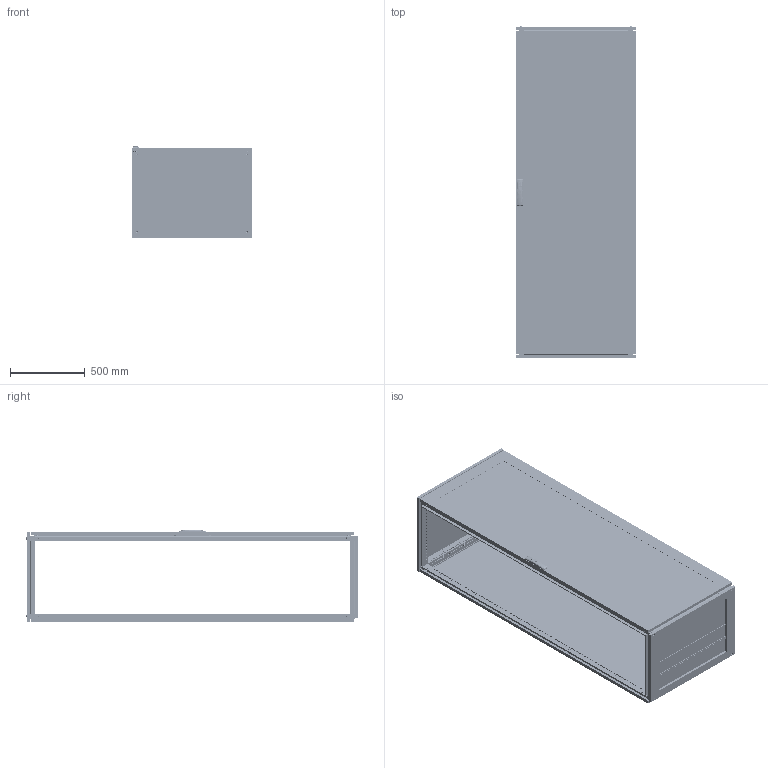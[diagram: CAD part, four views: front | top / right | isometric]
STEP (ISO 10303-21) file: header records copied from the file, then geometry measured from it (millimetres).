
FILE_DESCRIPTION (( 'STEP AP203' ), '1' );
FILE_NAME ('R5CQEN2286AX +.STEP', '2025-05-07T13:00:06', ( '' ), ( '' ), 'SwSTEP 2.0', 'SolidWorks 2022', '' );
FILE_SCHEMA (( 'CONFIG_CONTROL_DESIGN' ));
Length unit declared in the file: millimetre
Products named in the file (66): RB.0562.01.00.0 СБ simple_-19; Glue CPTE simple_2200x0800; Glass CPTE_2200x0800; AC00C446-R; RB.2968.00.00.0 simple; TPA.08.0139.00.03.0; RB.2528.00.00.0 simple_-06; RB.1957.00.00.0 simple_-10; Square cap 20x20 simple; M6x10 DIN 7500 M Torx cl.5.8 Zinc_straight; RB.2685.00.00.0 simple_-02; M6x15 Erickson cl.4,8 Zinc; 7 DIN 6799 Zinc; TPA.08.0139.00.01.0 simple; RB.2702.00.00.0 simple; RB.1633.00.02.0 simple_-02; RB.2680.00.01.0 simple; M6 MGR-MKO-0625 simple_Thread; Pin 4x16 DIN 7 AISI 303 (A1) simple; RB.1867.01.00.0 СБ simple_-28 ; M8x12 AC00C476 cl.8,8 Zinc_stright; RB.0562.00.00.0 СБ simple_-19; M6x10 DIN 7500 E HX cl.5.8 Zinc_straight; RB.0528.04.01.0 simple; RB.2696.00.00.0 simple; RB.2455.00.00.0 simple_-03; R5CQEN2286AX +; R5NCRE-Assem simple_R5NCRE2280; RB.2680.00.00.0 СБ simple; PF 7,5x15 CPE simple_2200x0800; RB.2052.00.00.0 СБ simple_-30; М6х12 A5100231_straight; M6x10 DIN 912 HX cl.8,8 Zinc_straight; TPA.08.0084.00.00.0 simple; M6 DIN 985 cl.6,0 Zinc_straight; RB.2680.00.02.0 simple; RB.0528.00.01.0 simple_-06; RB.2755.00.00.0 СБ simple_-20; RB.2457.00.00.0 СБ simple_-20; RB.1957.00.00.0 simple_-11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
Assembly tree (173 placements, depth 5):
  R5CQEN2286AX +
    R5NCPTE - Assem simple_R5NCPTE2280
      RB.0562.00.00.0 СБ simple_-19
        RB.0562.01.00.0 СБ simple_-19
          RB.0562.01.01.0 simple_-19
          М6х12 A5100231_straight  x7
          RB.2702.00.00.0 simple  x4
          PF 7,5x15 CPE simple_2200x0800
          Glass CPTE_2200x0800
          Glue CPTE simple_2200x0800
        Square cap 20x20 simple  x2
        M6x15 Erickson cl.4,8 Zinc  x2
        RB.0528.00.01.0 simple_-06  x2
        ATOS Traction guide ILY03.35  x4
        RB.2357.00.00.0 simple_-05
        RB.2680.00.00.0 СБ simple
          TPA.08.0139.00.01.0 simple
          RB.2680.00.01.0 simple
          RB.2680.00.02.0 simple  x2
        TPA.08.0139.00.03.0  x2
        M6 DIN 985 cl.6,0 Zinc_straight  x4
        4,0x16 F Torx Zinc (ART 88200)_thread  x2
        RB.0528.04.00.0 СБ simple  x2
          RB.0528.04.01.0 simple
          Pressing stud FH-M6-12_M6x12mm
      M6x10 DIN 912 HX cl.8,8 Zinc_straight  x8
      4.8x13 DIN 7981 PH Zinc_straight
      7 DIN 6799 Zinc simple  x4
      RB.2968.00.00.0 simple  x4
      RB.2969.00.00.0 СБ simple  x4
        RB.2969.00.01.0 simple
        Pin 4x16 DIN 7 AISI 303 (A1) simple
        M6 MGR-MKO-0625 simple_Thread
      AC00C446-R
      RB.2696.00.00.0 simple  x4
      7 DIN 6799 Zinc  x4
    R5NCRE-Assem simple_R5NCRE2280
      RB.2052.00.00.0 СБ simple_-30
        RB.2052.01.00.0 СБ simple_-30
          RB.0054.01.01.0 simple_-30
          М6х12 A5100231_straight  x4
        PF 7x14 CRE simple_2200x0800
      RB.2172.00.00.1 simple  x8
      M6x10 DIN 7500 E HX cl.5.8 Zinc_straight  x8
      M6x10 DIN 7500 M Torx cl.5.8 Zinc_straight  x8
    R5NKMN - Assem simple_R5NKMN22 (800х600)
      RB.2528.00.00.0 simple_-06  x4
    R5NKTB - Assem simple_H=2200 R5NKTB86
      RB.2499.00.00.0 СБ simple_-20
        RB.2499.01.00.0 СБ simple_-19
          RB.1633.00.01.0 simple_-03  x2
          RB.1633.00.02.0 simple_-02  x2
          PF 5x10 KTB simple_800x600
        RB.2457.00.00.0 СБ simple_-20
          RB.2455.00.00.0 simple_-03  x2
          RB.2456.00.00.0 simple_-02  x2
          TPA.08.0084.00.00.0 simple  x2
          TPA.08.0083.00.00.0 simple  x2
          M8x12 AC00C476 cl.8,8 Zinc_stright  x4
        RB.1957.00.00.0 simple_-10  x2
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Bounding box: 800 x 2213.3 x 614.79 mm (x, y, z)
Volume: 19461639.5 mm3; surface area: 16700801.1 mm2
Topology: 176 solids, 192 shells, 24033 faces, 68331 edges, 45067 vertices
Faces by surface type: plane 13347, cylinder 9145, cone 704, bspline 435, torus 368, sphere 34
Entity records: 239556 total; most frequent: CARTESIAN_POINT 58045, ORIENTED_EDGE 36086, DIRECTION 34545, EDGE_CURVE 18069, VERTEX_POINT 11974, AXIS2_PLACEMENT_3D 11593, LINE 11359, VECTOR 11359
